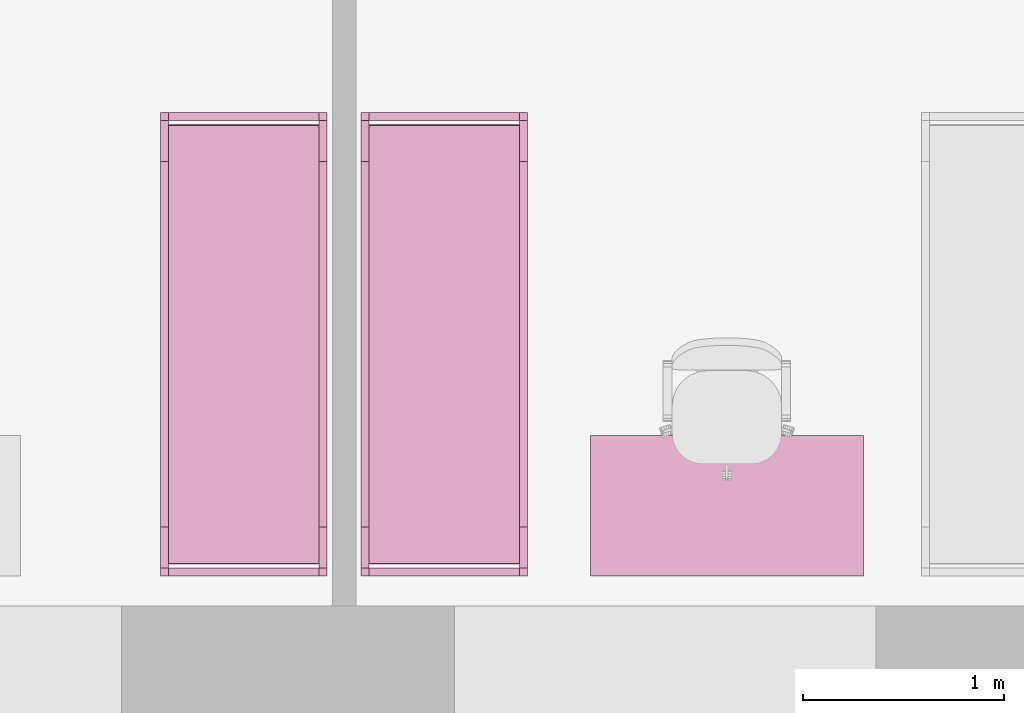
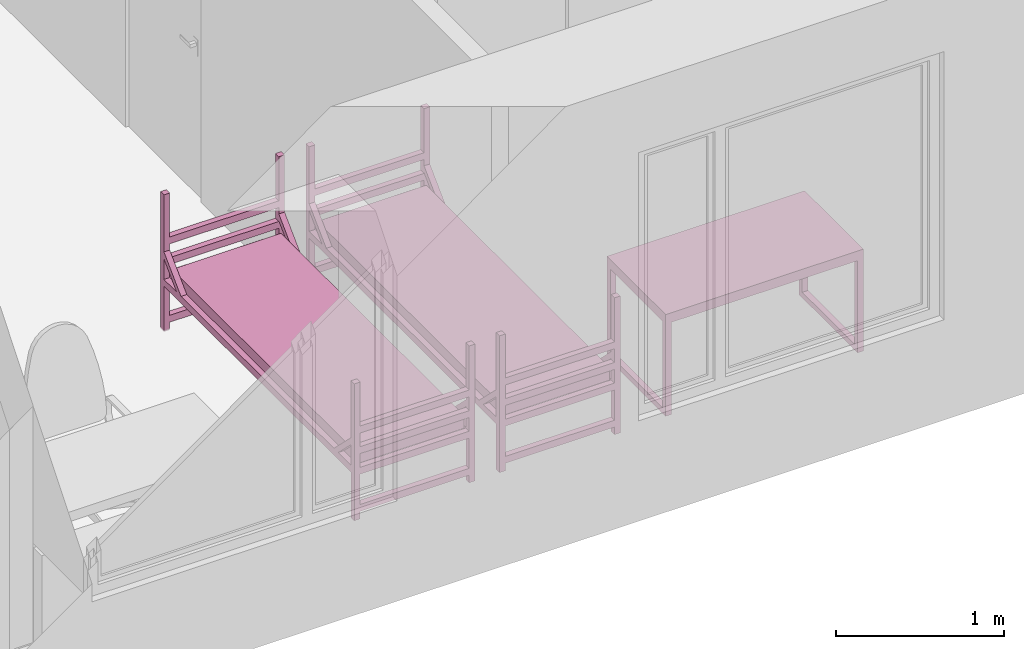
# One storey, part 28 of 46: 3 furnishings.
"""IFC2X3 building model written with IfcOpenShell, lengths in millimetres."""

import ifcopenshell
import ifcopenshell.guid

model = None  # the IFC model being written
_history = None  # IfcOwnerHistory: only IFC2X3 demands one
_inside = {}  # id of a spatial element -> (the spatial element, [elements in it])
_under = {}  # id of a project, library or spatial element -> (it, [spatial elements below it])
_declared = {}  # id of a project -> (the project, [libraries it declares])
_typed = {}  # id of a type object -> (the type object, [elements of that type])
_made_of = {}  # id of a material, layer set ... -> (it, [elements and type objects made of it])


def new_model(schema):
    """Start an empty IFC model of exactly this schema.

    Asked for "IFC4X3", IfcOpenShell would pick the latest addendum, in which some entities
    have other attributes; the version numbers below select the first issue.
    IFC2X3 requires an IfcOwnerHistory on every rooted entity: one is made here for all.
    """
    global model, _history
    if schema == "IFC4X3":
        model = ifcopenshell.file(schema_version=(4, 3, 0, 0))
    else:
        model = ifcopenshell.file(schema=schema)
    _inside.clear()
    _under.clear()
    _declared.clear()
    _typed.clear()
    _made_of.clear()
    _history = None
    if model.schema == "IFC2X3":
        org = make("IfcOrganization", Name="unknown")
        user = make(
            "IfcPersonAndOrganization",
            ThePerson=make("IfcPerson", FamilyName="unknown"),
            TheOrganization=org,
        )
        app = make(
            "IfcApplication",
            ApplicationDeveloper=org,
            Version="unknown",
            ApplicationFullName="unknown",
            ApplicationIdentifier="unknown",
        )
        _history = make(
            "IfcOwnerHistory",
            OwningUser=user,
            OwningApplication=app,
            ChangeAction="ADDED",
            CreationDate=0,
        )
    return model


def make(cls, **values):
    """One entity of the class cls with the attributes given. An attribute that is None is left unset."""
    return model.create_entity(
        cls, **{name: value for name, value in values.items() if value is not None}
    )


def entity(cls, *values):
    """Any entity or typed value of the class cls, its attributes in the order of the schema. None: left unset."""
    e = model.create_entity(cls)
    for i, value in enumerate(values):
        if value is not None:
            e[i] = value
    return e


def rooted(cls, **values):
    """An entity with a GlobalId (a new one), such as an element, a storey or a relation."""
    return make(cls, GlobalId=ifcopenshell.guid.new(), OwnerHistory=_history, **values)


def si_unit(unit_type, name, prefix=None):
    """IfcSIUnit, for example si_unit("LENGTHUNIT", "METRE", prefix="MILLI")."""
    return make("IfcSIUnit", UnitType=unit_type, Prefix=prefix, Name=name)


def converted_unit(unit_type, name, factor, base, dimensions=None, offset=None):
    """IfcConversionBasedUnit, such as the inch: factor (a typed value) times the base unit."""
    return make(
        "IfcConversionBasedUnit"
        if offset is None
        else "IfcConversionBasedUnitWithOffset",
        ConversionOffset=offset,
        Dimensions=None
        if dimensions is None
        else entity("IfcDimensionalExponents", *dimensions),
        UnitType=unit_type,
        Name=name,
        ConversionFactor=make(
            "IfcMeasureWithUnit", ValueComponent=factor, UnitComponent=base
        ),
    )


def derived_unit(unit_type, elements):
    """IfcDerivedUnit: a product of units, each with its exponent."""
    return make(
        "IfcDerivedUnit",
        Elements=[
            make("IfcDerivedUnitElement", Unit=unit, Exponent=power)
            for unit, power in elements
        ],
        UnitType=unit_type,
    )


def assignment(units):
    """IfcUnitAssignment: the units of a project."""
    return None if units is None else make("IfcUnitAssignment", Units=units)


def point(xyz):
    """IfcCartesianPoint."""
    return None if xyz is None else make("IfcCartesianPoint", Coordinates=xyz)


def direction(xyz):
    """IfcDirection."""
    return None if xyz is None else make("IfcDirection", DirectionRatios=xyz)


def frame(location, z_axis=None, x_axis=None):
    """IfcAxis2Placement3D, a coordinate frame: its origin and axes. An axis left out is left unset."""
    return make(
        "IfcAxis2Placement3D",
        Location=point(location),
        Axis=direction(z_axis),
        RefDirection=direction(x_axis),
    )


def frame_2d(location, x_axis=None):
    """IfcAxis2Placement2D, a coordinate frame in the plane: its origin and x axis."""
    return make(
        "IfcAxis2Placement2D", Location=point(location), RefDirection=direction(x_axis)
    )


def origin():
    """The frame at (0, 0, 0) with its axes left unset."""
    return frame((0.0, 0.0, 0.0))


def origin_2d_with_axis():
    """The frame at (0, 0) in the plane with the x axis (1, 0) written out."""
    return frame_2d((0.0, 0.0), x_axis=(1.0, 0.0))


def place(relative_to, where):
    """IfcLocalPlacement: puts the frame where relative to a parent placement (None: the world)."""
    return make(
        "IfcLocalPlacement", PlacementRelTo=relative_to, RelativePlacement=where
    )


def context(
    kind, dimensions, precision=None, world=None, true_north=None, identifier=None
):
    """IfcGeometricRepresentationContext, for example the 3D "Model" context."""
    return make(
        "IfcGeometricRepresentationContext",
        ContextIdentifier=identifier,
        ContextType=kind,
        CoordinateSpaceDimension=dimensions,
        Precision=precision,
        WorldCoordinateSystem=world,
        TrueNorth=true_north,
    )


def subcontext(parent, identifier, kind, view, scale=None):
    """IfcGeometricRepresentationSubContext, for example "Body" below "Model"."""
    return make(
        "IfcGeometricRepresentationSubContext",
        ContextIdentifier=identifier,
        ContextType=kind,
        ParentContext=parent,
        TargetScale=scale,
        TargetView=view,
    )


def project(units=None, contexts=None):
    """IfcProject with its units and contexts."""
    return rooted(
        "IfcProject",
        Name="project",
        RepresentationContexts=contexts,
        UnitsInContext=assignment(units),
    )


def spatial(cls, under=None, at=None, **own):
    """A site, building, storey or space (cls), placed at a placement, below another one or the project."""
    s = rooted(cls, ObjectPlacement=at, **own)
    if under is not None:
        _under.setdefault(under.id(), (under, []))[1].append(s)
    return s


def polyline(points):
    """IfcPolyline through the points."""
    return make("IfcPolyline", Points=[point(p) for p in points])


def circle_curve(where, radius):
    """IfcCircle in the frame where."""
    return make("IfcCircle", Position=where, Radius=radius)


def parameter(value):
    """IfcParameterValue: where a trimmed curve begins or ends, as a parameter of its basis curve."""
    return model.create_entity("IfcParameterValue", value)


def trimmed(basis, trim1, trim2, sense, master):
    """IfcTrimmedCurve: the piece of a basis curve between two trims."""
    return make(
        "IfcTrimmedCurve",
        BasisCurve=basis,
        Trim1=trim1,
        Trim2=trim2,
        SenseAgreement=sense,
        MasterRepresentation=master,
    )


def segment(curve, same_sense, transition):
    """IfcCompositeCurveSegment."""
    return make(
        "IfcCompositeCurveSegment",
        Transition=transition,
        SameSense=same_sense,
        ParentCurve=curve,
    )


def composite_curve(segments, self_intersect=None):
    """IfcCompositeCurve: segments joined end to end."""
    return make("IfcCompositeCurve", Segments=segments, SelfIntersect=self_intersect)


def profile(cls, at=None, kind="AREA", **sizes):
    """A parametric profile (cls). Its sizes go by their IFC names, for example OverallWidth=200.0."""
    return make(cls, ProfileType=kind, Position=at, **sizes)


def rectangle(**sizes):
    """IfcRectangleProfileDef."""
    return profile("IfcRectangleProfileDef", **sizes)


def outline(outer, holes=None, kind="AREA"):
    """IfcArbitraryClosedProfileDef: a profile drawn as a closed curve; with holes, ...WithVoids."""
    if holes is None:
        return make("IfcArbitraryClosedProfileDef", ProfileType=kind, OuterCurve=outer)
    return make(
        "IfcArbitraryProfileDefWithVoids",
        ProfileType=kind,
        OuterCurve=outer,
        InnerCurves=holes,
    )


def extrude(swept, where, along, depth):
    """IfcExtrudedAreaSolid: the profile swept, set in the frame where, extruded along a direction by depth."""
    return make(
        "IfcExtrudedAreaSolid",
        SweptArea=swept,
        Position=where,
        ExtrudedDirection=direction(along),
        Depth=depth,
    )


def faces_of(points, faces, orient=None, outer=None):
    """IfcFace entities. A face is a list of loops; a loop is a list of indices into points, from 0.

    orient and outer hold one flag for each loop. By default every Orientation is true, the
    first loop of a face is its IfcFaceOuterBound and the others are IfcFaceBound.
    """
    made = []
    for i, loops in enumerate(faces):
        bounds = []
        for j, loop in enumerate(loops):
            is_outer = j == 0 if outer is None else outer[i][j]
            bounds.append(
                make(
                    "IfcFaceOuterBound" if is_outer else "IfcFaceBound",
                    Bound=make("IfcPolyLoop", Polygon=[points[k] for k in loop]),
                    Orientation=True if orient is None else orient[i][j],
                )
            )
        made.append(make("IfcFace", Bounds=bounds))
    return made


def faceted_brep(points, faces, orient=None, outer=None, voids=None):
    """IfcFacetedBrep: a solid bounded by flat faces; with voids (closed shells), ...WithVoids."""
    shared = [point(p) for p in points]
    hull = make("IfcClosedShell", CfsFaces=faces_of(shared, faces, orient, outer))
    if voids is None:
        return make("IfcFacetedBrep", Outer=hull)
    return make(
        "IfcFacetedBrepWithVoids",
        Outer=hull,
        Voids=[
            make(cls, CfsFaces=faces_of(shared, fs, o, b)) for cls, fs, o, b in voids
        ],
    )


def shape(context_of_items, identifier, shape_type, items):
    """IfcShapeRepresentation: the items that make up one representation, for example the "Body"."""
    return make(
        "IfcShapeRepresentation",
        ContextOfItems=context_of_items,
        RepresentationIdentifier=identifier,
        RepresentationType=shape_type,
        Items=items,
    )


def source(mapping_origin, context_of_items, identifier, shape_type, items):
    """IfcRepresentationMap: a shape defined once, which mapped items show again and again."""
    return make(
        "IfcRepresentationMap",
        MappingOrigin=mapping_origin,
        MappedRepresentation=shape(context_of_items, identifier, shape_type, items),
    )


def transform(
    local_origin,
    x_axis=None,
    y_axis=None,
    z_axis=None,
    scale=None,
    scale2=None,
    scale3=None,
    uniform=True,
):
    """IfcCartesianTransformationOperator3D, or its non-uniform kind. x_axis, y_axis, z_axis: its Axis1, 2, 3."""
    if uniform:
        return make(
            "IfcCartesianTransformationOperator3D",
            Axis1=direction(x_axis),
            Axis2=direction(y_axis),
            LocalOrigin=point(local_origin),
            Scale=scale,
            Axis3=direction(z_axis),
        )
    return make(
        "IfcCartesianTransformationOperator3DnonUniform",
        Axis1=direction(x_axis),
        Axis2=direction(y_axis),
        LocalOrigin=point(local_origin),
        Scale=scale,
        Axis3=direction(z_axis),
        Scale2=scale2,
        Scale3=scale3,
    )


def mapped(mapping_source, mapping_target):
    """IfcMappedItem: shows the shape of a source again, moved by a transform."""
    return make(
        "IfcMappedItem", MappingSource=mapping_source, MappingTarget=mapping_target
    )


def material(Name=None, Category=None):
    """IfcMaterial."""
    return make("IfcMaterial", Name=Name, Category=Category)


def material_list(materials):
    """IfcMaterialList."""
    return make("IfcMaterialList", Materials=materials)


def made_of(thing, what):
    """Note that an element or type object is made of a material, layer set ...; save() writes the relation."""
    if what is not None:
        _made_of.setdefault(what.id(), (what, []))[1].append(thing)
    return thing


def type_object(cls, material=None, **own):
    """A type object (cls), such as IfcWallType, which elements share."""
    return made_of(rooted(cls, **own), material)


def type_shapes(of_type, sources):
    """Give a type object the sources (RepresentationMaps) that its elements show as mapped items."""
    of_type.RepresentationMaps = sources


def element(
    cls,
    number,
    at=None,
    inside=None,
    cuts=None,
    type_object=None,
    material=None,
    context=None,
    identifier="Body",
    shape_type=None,
    held_by="IfcProductDefinitionShape",
    body=None,
    shapes=None,
    **own,
):
    """One element of the class cls, such as IfcWall. Its Tag is "e" and its number.

    at: its placement. inside: the storey or other place that contains it. cuts: it is an
    opening in that element (IfcRelVoidsElement). A single representation is given by context,
    identifier, shape_type and body (its items); several are given by shapes. held_by: the class
    of the entity that holds the representations. save() writes the other relations.
    """
    e = rooted(cls, Tag="e%d" % number, ObjectPlacement=at, **own)
    if body is not None:
        shapes = [shape(context, identifier, shape_type, body)]
    if shapes is not None:
        e.Representation = make(held_by, Representations=shapes)
    if inside is not None:
        _inside.setdefault(inside.id(), (inside, []))[1].append(e)
    if cuts is not None:
        rooted(
            "IfcRelVoidsElement", RelatingBuildingElement=cuts, RelatedOpeningElement=e
        )
    if type_object is not None:
        _typed.setdefault(type_object.id(), (type_object, []))[1].append(e)
    return made_of(e, material)


def aggregate(whole, parts):
    """IfcRelAggregates: a whole, such as a stair, and the parts it consists of."""
    return rooted("IfcRelAggregates", RelatingObject=whole, RelatedObjects=parts)


def save(model, path):
    """Write the relations noted so far, then the file.

    IfcRelAggregates (storeys below a building ...), IfcRelContainedInSpatialStructure (elements
    in a storey), IfcRelDefinesByType, IfcRelAssociatesMaterial and IfcRelDeclares: one each for
    every whole, place, type object, material and project.
    """
    for whole, parts in _under.values():
        aggregate(whole, parts)
    for where, things in _inside.values():
        rooted(
            "IfcRelContainedInSpatialStructure",
            RelatedElements=things,
            RelatingStructure=where,
        )
    for kind, things in _typed.values():
        rooted("IfcRelDefinesByType", RelatedObjects=things, RelatingType=kind)
    for what, things in _made_of.values():
        rooted("IfcRelAssociatesMaterial", RelatedObjects=things, RelatingMaterial=what)
    for by, libraries in _declared.values():
        rooted("IfcRelDeclares", RelatingContext=by, RelatedDefinitions=libraries)
    model.write(path)


model = new_model("IFC2X3")

# Units and contexts
model_context = context("Model", 3, precision=0.01, world=origin(), true_north=direction((6.12303176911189e-17, 1.0)))
body_context = subcontext(model_context, "Body", "Model", "MODEL_VIEW")
ifc_project = project(units=[si_unit("LENGTHUNIT", "METRE", prefix="MILLI"), si_unit("AREAUNIT", "SQUARE_METRE"), si_unit("VOLUMEUNIT", "CUBIC_METRE"), converted_unit("PLANEANGLEUNIT", "DEGREE", entity("IfcRatioMeasure", 0.0174532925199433), si_unit("PLANEANGLEUNIT", "RADIAN"), dimensions=[0, 0, 0, 0, 0, 0, 0]), si_unit("MASSUNIT", "GRAM", prefix="KILO"), derived_unit("MASSDENSITYUNIT", [(si_unit("MASSUNIT", "GRAM", prefix="KILO"), 1), (si_unit("LENGTHUNIT", "METRE"), -3)]), si_unit("TIMEUNIT", "SECOND"), si_unit("FREQUENCYUNIT", "HERTZ"), si_unit("THERMODYNAMICTEMPERATUREUNIT", "DEGREE_CELSIUS"), derived_unit("THERMALTRANSMITTANCEUNIT", [(si_unit("MASSUNIT", "GRAM", prefix="KILO"), 1), (si_unit("THERMODYNAMICTEMPERATUREUNIT", "KELVIN"), -1), (si_unit("TIMEUNIT", "SECOND"), -3)]), derived_unit("VOLUMETRICFLOWRATEUNIT", [(si_unit("LENGTHUNIT", "METRE"), 3), (si_unit("TIMEUNIT", "SECOND"), -1)]), si_unit("ELECTRICCURRENTUNIT", "AMPERE"), si_unit("ELECTRICVOLTAGEUNIT", "VOLT"), si_unit("POWERUNIT", "WATT"), si_unit("FORCEUNIT", "NEWTON", prefix="KILO"), si_unit("ILLUMINANCEUNIT", "LUX"), si_unit("LUMINOUSFLUXUNIT", "LUMEN"), si_unit("LUMINOUSINTENSITYUNIT", "CANDELA"), derived_unit("USERDEFINED", [(si_unit("MASSUNIT", "GRAM", prefix="KILO"), -1), (si_unit("LENGTHUNIT", "METRE"), -2), (si_unit("TIMEUNIT", "SECOND"), 3), (si_unit("LUMINOUSFLUXUNIT", "LUMEN"), 1)]), derived_unit("LINEARVELOCITYUNIT", [(si_unit("LENGTHUNIT", "METRE"), 1), (si_unit("TIMEUNIT", "SECOND"), -1)]), si_unit("PRESSUREUNIT", "PASCAL"), derived_unit("USERDEFINED", [(si_unit("LENGTHUNIT", "METRE"), -2), (si_unit("MASSUNIT", "GRAM", prefix="KILO"), 1), (si_unit("TIMEUNIT", "SECOND"), -2)]), derived_unit("LINEARFORCEUNIT", [(si_unit("MASSUNIT", "GRAM", prefix="KILO"), 1), (si_unit("LENGTHUNIT", "METRE"), 1), (si_unit("TIMEUNIT", "SECOND"), -2), (si_unit("LENGTHUNIT", "METRE"), -1)]), derived_unit("PLANARFORCEUNIT", [(si_unit("MASSUNIT", "GRAM", prefix="KILO"), 1), (si_unit("LENGTHUNIT", "METRE"), 1), (si_unit("TIMEUNIT", "SECOND"), -2), (si_unit("LENGTHUNIT", "METRE"), -2)])], contexts=[model_context])

# Site, building, storey, space
site_placement = place(None, origin())
site = spatial("IfcSite", under=ifc_project, at=site_placement, Name="Default", CompositionType="ELEMENT")
building_placement = place(site_placement, origin())
building = spatial("IfcBuilding", under=site, at=building_placement, Name="SMA ARH", CompositionType="ELEMENT")
storey_placement = place(building_placement, frame((0.0, 0.0, 9910.0)))
storey = spatial("IfcBuildingStorey", under=building, at=storey_placement, Name="4 Korrus", CompositionType="ELEMENT", Elevation=9909.9999999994)
space_1_placement = place(storey_placement, origin())
space_1 = spatial("IfcSpace", under=storey, at=space_1_placement, Name="4-9", CompositionType="ELEMENT", InteriorOrExteriorSpace="INTERNAL")

# Furnishing
ifc_material_1 = material(Name="Madrats")
furniture_type_1 = type_object("IfcFurnitureType", Name="Kasarmu voodi ühekordne 2308x830:Kasarmu voodi ühekordne 2308x830", material=ifc_material_1)
shared_shape_1 = source(origin(), body_context, "Body", "SweptSolid", [
    extrude(rectangle(XDim=39.9999999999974, YDim=750.000000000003, at=frame_2d((-1.35003119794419e-13, -2.8421709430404e-14), x_axis=(1.0, 0.0))), frame((1.68638457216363, -1226.7969571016, 55.0), z_axis=(0.0, 0.0, 1.0), x_axis=(0.0, -1.0, 0.0)), (0.0, 0.0, 1.0), 49.9999999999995),
    extrude(rectangle(XDim=39.9999999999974, YDim=750.000000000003, at=frame_2d((-1.35003119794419e-13, -2.8421709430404e-14), x_axis=(1.0, 0.0))), frame((1.68638457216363, -1226.7969571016, 325.0), z_axis=(0.0, 0.0, 1.0), x_axis=(0.0, -1.0, 0.0)), (0.0, 0.0, 1.0), 49.9999999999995),
    extrude(rectangle(XDim=39.9999999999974, YDim=750.000000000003, at=frame_2d((-1.35003119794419e-13, -2.8421709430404e-14), x_axis=(1.0, 0.0))), frame((1.68638457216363, -1226.7969571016, 475.0), z_axis=(0.0, 0.0, 1.0), x_axis=(0.0, -1.0, 0.0)), (0.0, 0.0, 1.0), 49.9999999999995),
    extrude(rectangle(XDim=39.9999999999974, YDim=750.000000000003, at=frame_2d((-1.35003119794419e-13, -2.8421709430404e-14), x_axis=(1.0, 0.0))), frame((1.68638457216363, -1226.7969571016, 625.0), z_axis=(0.0, 0.0, 1.0), x_axis=(0.0, -1.0, 0.0)), (0.0, 0.0, 1.0), 50.0000000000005),
    extrude(rectangle(XDim=39.9999999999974, YDim=750.000000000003, at=frame_2d((1.35003119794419e-13, -2.8421709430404e-14), x_axis=(1.0, 0.0))), frame((1.68638457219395, 1041.2030428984, 55.0), z_axis=(0.0, 0.0, 1.0), x_axis=(0.0, -1.0, 0.0)), (0.0, 0.0, 1.0), 50.0000000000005),
    extrude(rectangle(XDim=39.9999999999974, YDim=750.000000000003, at=frame_2d((1.35003119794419e-13, -2.8421709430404e-14), x_axis=(1.0, 0.0))), frame((1.68638457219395, 1041.2030428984, 325.0), z_axis=(0.0, 0.0, 1.0), x_axis=(0.0, -1.0, 0.0)), (0.0, 0.0, 1.0), 50.0000000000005),
    extrude(rectangle(XDim=39.9999999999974, YDim=750.000000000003, at=frame_2d((1.35003119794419e-13, -2.8421709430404e-14), x_axis=(1.0, 0.0))), frame((1.68638457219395, 1041.2030428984, 475.0), z_axis=(0.0, 0.0, 1.0), x_axis=(0.0, -1.0, 0.0)), (0.0, 0.0, 1.0), 50.0000000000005),
    extrude(rectangle(XDim=39.9999999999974, YDim=750.000000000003, at=frame_2d((1.35003119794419e-13, -2.8421709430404e-14), x_axis=(1.0, 0.0))), frame((1.68638457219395, 1041.2030428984, 625.0), z_axis=(0.0, 0.0, 1.0), x_axis=(0.0, -1.0, 0.0)), (0.0, 0.0, 1.0), 49.9999999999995),
    extrude(outline(composite_curve([segment(trimmed(circle_curve(frame_2d((1085.0, -40.0), x_axis=(1.0, 0.0)), 10.0), [parameter(270.0)], [parameter(0.0)], True, "PARAMETER"), True, "CONTINUOUS"), segment(polyline([(1095.0, -40.0), (1095.0, 40.0)]), True, "CONTINUOUS"), segment(trimmed(circle_curve(frame_2d((1085.0, 40.0), x_axis=(1.0, 0.0)), 10.0), [parameter(0.0)], [parameter(90.0000000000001)], True, "PARAMETER"), True, "CONTINUOUS"), segment(polyline([(1085.0, 50.0), (-1085.0, 50.0)]), True, "CONTINUOUS"), segment(trimmed(circle_curve(frame_2d((-1085.0, 40.0), x_axis=(1.0, 0.0)), 10.0), [parameter(90.0000000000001)], [parameter(180.0)], True, "PARAMETER"), True, "CONTINUOUS"), segment(polyline([(-1095.0, 40.0), (-1095.0, -40.0)]), True, "CONTINUOUS"), segment(trimmed(circle_curve(frame_2d((-1085.0, -40.0), x_axis=(1.0, 0.0)), 10.0), [parameter(180.0)], [parameter(270.0)], True, "PARAMETER"), True, "CONTINUOUS"), segment(polyline([(-1085.0, -50.0), (1085.0, -50.0)]), True, "CONTINUOUS")], self_intersect=False)), frame((-373.313615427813, -92.7969571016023, 405.0), z_axis=(1.0, 0.0, 0.0), x_axis=(0.0, -1.0, 0.0)), (0.0, 0.0, 1.0), 750.000000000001),
    extrude(outline(polyline([(-1114.0, -100.0), (1114.0, -100.0), (1114.0, -50.0), (961.59199141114, -50.0), (1114.0, 100.0), (1114.0, 150.0), (910.789321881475, -50.0), (-910.789321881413, -50.0), (-1114.0, 150.0), (-1114.0, 100.0), (-961.591991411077, -50.0), (-1114.0, -50.0), (-1114.0, -100.0)])), frame((-413.313615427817, -92.7969571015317, 430.0), z_axis=(1.0, 0.0, 0.0), x_axis=(0.0, 1.0, 0.0)), (0.0, 0.0, 1.0), 39.9999999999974),
    extrude(outline(polyline([(-1114.0, -100.0), (1114.0, -100.0), (1114.0, -50.0), (961.591991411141, -50.0), (1114.0, 100.0), (1114.0, 150.0), (910.789321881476, -50.0), (-910.789321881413, -50.0), (-1114.0, 150.0), (-1114.0, 100.0), (-961.591991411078, -50.0), (-1114.0, -50.0), (-1114.0, -100.0)])), frame((376.686384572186, -92.796957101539, 430.0), z_axis=(1.0, 0.0, 0.0), x_axis=(0.0, 1.0, 0.0)), (0.0, 0.0, 1.0), 39.9999999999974),
    extrude(rectangle(XDim=39.9999999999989, YDim=39.9999999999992, at=frame_2d((-6.75015598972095e-14, 0.0), x_axis=(1.0, 0.0))), frame((396.686384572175, -1226.79695710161, 0.0), z_axis=(0.0, 0.0, 1.0), x_axis=(0.0, 1.0, 0.0)), (0.0, 0.0, 1.0), 995.0),
    extrude(rectangle(XDim=39.9999999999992, YDim=39.9999999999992, at=frame_2d((-1.35003119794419e-13, 0.0), x_axis=(1.0, 0.0))), frame((396.686384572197, 1041.20304289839, 0.0), z_axis=(0.0, 0.0, 1.0), x_axis=(0.0, 1.0, 0.0)), (0.0, 0.0, 1.0), 995.0),
    extrude(rectangle(XDim=40.0000000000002, YDim=39.9999999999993, at=frame_2d((-1.35003119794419e-13, 0.0), x_axis=(1.0, 0.0))), frame((-393.313615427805, 1041.2030428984, 0.0), z_axis=(0.0, 0.0, 1.0), x_axis=(0.0, 1.0, 0.0)), (0.0, 0.0, 1.0), 995.0),
    extrude(rectangle(XDim=39.9999999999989, YDim=39.9999999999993, at=frame_2d((-6.75015598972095e-14, 0.0), x_axis=(1.0, 0.0))), frame((-393.313615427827, -1226.7969571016, 0.0), z_axis=(0.0, 0.0, 1.0), x_axis=(0.0, 1.0, 0.0)), (0.0, 0.0, 1.0), 995.0),
])
type_shapes(furniture_type_1, [shared_shape_1])
furnishing_1_placement = place(space_1_placement, frame((19032.1863845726, 1211.20304289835, 0.0), z_axis=(0.0, 0.0, 1.0), x_axis=(-1.0, 0.0, 0.0)))
element("IfcFurnishingElement", 1, at=furnishing_1_placement, inside=space_1, type_object=furniture_type_1, material=ifc_material_1, Name="Kasarmu voodi ühekordne 2308x830:Kasarmu voodi ühekordne 2308x830", ObjectType="Kasarmu voodi ühekordne 2308x830:Kasarmu voodi ühekordne 2308x830", context=body_context, shape_type="MappedRepresentation", body=[
    mapped(shared_shape_1, transform((0.0, 0.0, 0.0), scale=1.0)),
])

# Space
space_2_placement = place(storey_placement, origin())
space_2 = spatial("IfcSpace", under=storey, at=space_2_placement, Name="4-8", CompositionType="ELEMENT", InteriorOrExteriorSpace="INTERNAL")

# Furnishings
ifc_material_2 = material(Name="<Unnamed>")
ifc_material_list = material_list([ifc_material_2, ifc_material_2])
furniture_type_2 = type_object("IfcFurnitureType", Name="kirjutuslaud 1360x700mm:kirjutuslaud 1360x700mm", material=ifc_material_list)
shared_shape_2 = source(origin(), body_context, "Body", "Brep", [
    faceted_brep([(680.0, -350.0, 720.0), (680.0, 350.0, 720.0), (680.0, 350.0, 750.0), (680.0, -350.0, 750.0), (-680.0, -350.0, 720.0), (-680.0, -350.0, 750.0), (-680.0, 350.0, 750.0), (-680.0, 350.0, 720.0)], [[[0, 1, 2, 3]], [[4, 5, 6, 7]], [[1, 0, 4, 7]], [[2, 1, 7, 6]], [[3, 2, 6, 5]], [[0, 3, 5, 4]]]),
    faceted_brep([(-640.0, -310.0, 680.0), (-640.0, 310.0, 680.0), (-640.0, 310.0, 720.0), (-640.0, -310.0, 720.0), (-680.0, -350.0, 720.0), (-680.0, 350.0, 720.0), (-680.0, 350.0, 10.0), (-680.0, -350.0, 10.0), (-680.0, 310.0, 680.0), (-680.0, -310.0, 680.0), (-680.0, -310.0, 50.0), (-680.0, 310.0, 50.0), (-640.0, -350.0, 10.0), (-640.0, -350.0, 680.0), (640.0, -350.0, 680.0), (640.0, -350.0, 10.0), (680.0, -350.0, 10.0), (680.0, -350.0, 720.0), (-640.0, 350.0, 10.0), (680.0, 350.0, 720.0), (680.0, 350.0, 10.0), (640.0, 350.0, 10.0), (640.0, 350.0, 680.0), (-640.0, 350.0, 680.0), (640.0, 310.0, 720.0), (640.0, -310.0, 720.0), (-640.0, 310.0, 50.0), (-640.0, -310.0, 50.0), (640.0, -310.0, 680.0), (640.0, 310.0, 680.0), (680.0, 310.0, 680.0), (680.0, 310.0, 50.0), (680.0, -310.0, 50.0), (680.0, -310.0, 680.0), (640.0, -310.0, 50.0), (640.0, 310.0, 50.0)], [[[0, 1, 2, 3]], [[4, 5, 6, 7], [8, 9, 10, 11]], [[4, 7, 12, 13, 14, 15, 16, 17]], [[18, 12, 7, 6]], [[6, 5, 19, 20, 21, 22, 23, 18]], [[19, 5, 4, 17], [2, 24, 25, 3]], [[26, 1, 8, 11]], [[27, 26, 11, 10]], [[0, 27, 10, 9]], [[1, 0, 9, 8]], [[14, 13, 0, 28]], [[24, 2, 1, 29]], [[3, 25, 28, 0]], [[17, 16, 20, 19], [30, 31, 32, 33]], [[21, 15, 14, 28, 34, 35, 29, 22]], [[20, 16, 15, 21]], [[31, 30, 29, 35]], [[32, 31, 35, 34]], [[33, 32, 34, 28]], [[30, 33, 28, 29]], [[29, 28, 25, 24]], [[29, 1, 23, 22]], [[12, 18, 23, 1, 26, 27, 0, 13]]]),
    faceted_brep([(-663.729456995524, -270.466136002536, 0.0), (-659.847171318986, -269.955023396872, 0.0), (-655.964885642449, -270.466136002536, 0.0), (-652.347171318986, -271.964642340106, 0.0), (-649.240569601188, -274.348421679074, 0.0), (-646.85679026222, -277.455023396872, 0.0), (-645.35828392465, -281.072737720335, 0.0), (-644.847171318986, -284.955023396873, 0.0), (-645.35828392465, -288.83730907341, 0.0), (-646.85679026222, -292.455023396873, 0.0), (-649.240569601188, -295.561625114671, 0.0), (-652.347171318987, -297.945404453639, 0.0), (-655.964885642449, -299.443910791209, 0.0), (-659.847171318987, -299.955023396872, 0.0), (-663.729456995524, -299.443910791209, 0.0), (-667.347171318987, -297.945404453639, 0.0), (-670.453773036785, -295.561625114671, 0.0), (-672.837552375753, -292.455023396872, 0.0), (-674.336058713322, -288.83730907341, 0.0), (-674.847171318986, -284.955023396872, 0.0), (-674.336058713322, -281.072737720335, 0.0), (-672.837552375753, -277.455023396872, 0.0), (-670.453773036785, -274.348421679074, 0.0), (-667.347171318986, -271.964642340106, 0.0), (-655.964885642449, -299.443910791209, 10.0), (-652.347171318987, -297.945404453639, 10.0), (-649.240569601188, -295.561625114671, 10.0), (-646.85679026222, -292.455023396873, 10.0), (-645.35828392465, -288.83730907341, 10.0), (-644.847171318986, -284.955023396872, 10.0), (-645.35828392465, -281.072737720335, 10.0), (-646.85679026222, -277.455023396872, 10.0), (-649.240569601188, -274.348421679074, 10.0), (-652.347171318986, -271.964642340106, 10.0), (-655.964885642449, -270.466136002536, 10.0), (-659.847171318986, -269.955023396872, 10.0), (-663.729456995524, -270.466136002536, 10.0), (-667.347171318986, -271.964642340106, 10.0), (-670.453773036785, -274.348421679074, 10.0), (-672.837552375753, -277.455023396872, 10.0), (-674.336058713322, -281.072737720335, 10.0), (-674.847171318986, -284.955023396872, 10.0), (-674.336058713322, -288.83730907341, 10.0), (-672.837552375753, -292.455023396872, 10.0), (-670.453773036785, -295.561625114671, 10.0), (-667.347171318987, -297.945404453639, 10.0), (-663.729456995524, -299.443910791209, 10.0), (-659.847171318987, -299.955023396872, 10.0)], [[[0, 1, 2, 3, 4, 5, 6, 7, 8, 9, 10, 11, 12, 13, 14, 15, 16, 17, 18, 19, 20, 21, 22, 23]], [[24, 25, 26, 27, 28, 29, 30, 31, 32, 33, 34, 35, 36, 37, 38, 39, 40, 41, 42, 43, 44, 45, 46, 47]], [[18, 42, 41, 19]], [[17, 43, 42, 18]], [[45, 44, 16, 15]], [[17, 16, 44, 43]], [[46, 45, 15, 14]], [[47, 46, 14, 13]], [[12, 24, 47, 13]], [[11, 25, 24, 12]], [[27, 26, 10, 9]], [[11, 10, 26, 25]], [[28, 27, 9, 8]], [[29, 28, 8, 7]], [[6, 30, 29, 7]], [[5, 31, 30, 6]], [[33, 32, 4, 3]], [[5, 4, 32, 31]], [[34, 33, 3, 2]], [[35, 34, 2, 1]], [[0, 36, 35, 1]], [[23, 37, 36, 0]], [[39, 38, 22, 21]], [[23, 22, 38, 37]], [[40, 39, 21, 20]], [[41, 40, 20, 19]]]),
    faceted_brep([(-655.964885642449, 270.466136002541, 10.0), (-652.347171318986, 271.964642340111, 10.0), (-649.240569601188, 274.348421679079, 10.0), (-646.85679026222, 277.455023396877, 10.0), (-645.35828392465, 281.07273772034, 10.0), (-644.847171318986, 284.955023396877, 10.0), (-645.35828392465, 288.837309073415, 10.0), (-646.85679026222, 292.455023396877, 10.0), (-649.240569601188, 295.561625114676, 10.0), (-652.347171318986, 297.945404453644, 10.0), (-655.964885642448, 299.443910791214, 10.0), (-659.847171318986, 299.955023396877, 10.0), (-663.729456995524, 299.443910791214, 10.0), (-667.347171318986, 297.945404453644, 10.0), (-670.453773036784, 295.561625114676, 10.0), (-672.837552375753, 292.455023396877, 10.0), (-674.336058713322, 288.837309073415, 10.0), (-674.847171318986, 284.955023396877, 10.0), (-674.336058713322, 281.07273772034, 10.0), (-672.837552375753, 277.455023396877, 10.0), (-670.453773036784, 274.348421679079, 10.0), (-667.347171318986, 271.964642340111, 10.0), (-663.729456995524, 270.466136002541, 10.0), (-659.847171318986, 269.955023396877, 10.0), (-655.964885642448, 299.443910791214, 0.0), (-652.347171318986, 297.945404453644, 0.0), (-649.240569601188, 295.561625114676, 0.0), (-646.85679026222, 292.455023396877, 0.0), (-645.35828392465, 288.837309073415, 0.0), (-644.847171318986, 284.955023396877, 0.0), (-645.35828392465, 281.07273772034, 0.0), (-646.85679026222, 277.455023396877, 0.0), (-649.240569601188, 274.348421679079, 0.0), (-652.347171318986, 271.964642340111, 0.0), (-655.964885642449, 270.466136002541, 0.0), (-659.847171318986, 269.955023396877, 0.0), (-663.729456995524, 270.466136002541, 0.0), (-667.347171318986, 271.964642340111, 0.0), (-670.453773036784, 274.348421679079, 0.0), (-672.837552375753, 277.455023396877, 0.0), (-674.336058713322, 281.07273772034, 0.0), (-674.847171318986, 284.955023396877, 0.0), (-674.336058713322, 288.837309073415, 0.0), (-672.837552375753, 292.455023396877, 0.0), (-670.453773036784, 295.561625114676, 0.0), (-667.347171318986, 297.945404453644, 0.0), (-663.729456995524, 299.443910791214, 0.0), (-659.847171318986, 299.955023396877, 0.0)], [[[0, 1, 2, 3, 4, 5, 6, 7, 8, 9, 10, 11, 12, 13, 14, 15, 16, 17, 18, 19, 20, 21, 22, 23]], [[24, 25, 26, 27, 28, 29, 30, 31, 32, 33, 34, 35, 36, 37, 38, 39, 40, 41, 42, 43, 44, 45, 46, 47]], [[40, 18, 17, 41]], [[39, 19, 18, 40]], [[21, 20, 38, 37]], [[39, 38, 20, 19]], [[22, 21, 37, 36]], [[23, 22, 36, 35]], [[34, 0, 23, 35]], [[33, 1, 0, 34]], [[3, 2, 32, 31]], [[33, 32, 2, 1]], [[4, 3, 31, 30]], [[5, 4, 30, 29]], [[28, 6, 5, 29]], [[27, 7, 6, 28]], [[9, 8, 26, 25]], [[27, 26, 8, 7]], [[10, 9, 25, 24]], [[11, 10, 24, 47]], [[46, 12, 11, 47]], [[45, 13, 12, 46]], [[15, 14, 44, 43]], [[45, 44, 14, 13]], [[16, 15, 43, 42]], [[17, 16, 42, 41]]]),
    faceted_brep([(656.270543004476, -270.466136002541, 0.0), (660.152828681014, -269.955023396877, 0.0), (664.035114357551, -270.466136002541, 0.0), (667.652828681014, -271.96464234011, 0.0), (670.759430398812, -274.348421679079, 0.0), (673.14320973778, -277.455023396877, 0.0), (674.64171607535, -281.072737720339, 0.0), (675.152828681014, -284.955023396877, 0.0), (674.64171607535, -288.837309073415, 0.0), (673.14320973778, -292.455023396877, 0.0), (670.759430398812, -295.561625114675, 0.0), (667.652828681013, -297.945404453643, 0.0), (664.035114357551, -299.443910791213, 0.0), (660.152828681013, -299.955023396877, 0.0), (656.270543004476, -299.443910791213, 0.0), (652.652828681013, -297.945404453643, 0.0), (649.546226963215, -295.561625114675, 0.0), (647.162447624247, -292.455023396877, 0.0), (645.663941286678, -288.837309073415, 0.0), (645.152828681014, -284.955023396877, 0.0), (645.663941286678, -281.072737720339, 0.0), (647.162447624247, -277.455023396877, 0.0), (649.546226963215, -274.348421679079, 0.0), (652.652828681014, -271.96464234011, 0.0), (664.035114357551, -299.443910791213, 10.0), (667.652828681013, -297.945404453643, 10.0), (670.759430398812, -295.561625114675, 10.0), (673.14320973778, -292.455023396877, 10.0), (674.64171607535, -288.837309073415, 10.0), (675.152828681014, -284.955023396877, 10.0), (674.64171607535, -281.072737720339, 10.0), (673.14320973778, -277.455023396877, 10.0), (670.759430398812, -274.348421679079, 10.0), (667.652828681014, -271.96464234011, 10.0), (664.035114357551, -270.466136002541, 10.0), (660.152828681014, -269.955023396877, 10.0), (656.270543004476, -270.466136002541, 10.0), (652.652828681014, -271.96464234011, 10.0), (649.546226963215, -274.348421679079, 10.0), (647.162447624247, -277.455023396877, 10.0), (645.663941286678, -281.072737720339, 10.0), (645.152828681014, -284.955023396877, 10.0), (645.663941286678, -288.837309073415, 10.0), (647.162447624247, -292.455023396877, 10.0), (649.546226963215, -295.561625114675, 10.0), (652.652828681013, -297.945404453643, 10.0), (656.270543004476, -299.443910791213, 10.0), (660.152828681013, -299.955023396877, 10.0)], [[[0, 1, 2, 3, 4, 5, 6, 7, 8, 9, 10, 11, 12, 13, 14, 15, 16, 17, 18, 19, 20, 21, 22, 23]], [[24, 25, 26, 27, 28, 29, 30, 31, 32, 33, 34, 35, 36, 37, 38, 39, 40, 41, 42, 43, 44, 45, 46, 47]], [[18, 42, 41, 19]], [[17, 43, 42, 18]], [[45, 44, 16, 15]], [[17, 16, 44, 43]], [[46, 45, 15, 14]], [[47, 46, 14, 13]], [[12, 24, 47, 13]], [[11, 25, 24, 12]], [[27, 26, 10, 9]], [[11, 10, 26, 25]], [[28, 27, 9, 8]], [[29, 28, 8, 7]], [[6, 30, 29, 7]], [[5, 31, 30, 6]], [[33, 32, 4, 3]], [[5, 4, 32, 31]], [[34, 33, 3, 2]], [[35, 34, 2, 1]], [[0, 36, 35, 1]], [[23, 37, 36, 0]], [[39, 38, 22, 21]], [[23, 22, 38, 37]], [[40, 39, 21, 20]], [[41, 40, 20, 19]]]),
    faceted_brep([(664.035114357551, 270.466136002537, 10.0), (667.652828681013, 271.964642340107, 10.0), (670.759430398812, 274.348421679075, 10.0), (673.14320973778, 277.455023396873, 10.0), (674.64171607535, 281.072737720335, 10.0), (675.152828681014, 284.955023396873, 10.0), (674.64171607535, 288.837309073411, 10.0), (673.14320973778, 292.455023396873, 10.0), (670.759430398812, 295.561625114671, 10.0), (667.652828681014, 297.94540445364, 10.0), (664.035114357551, 299.443910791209, 10.0), (660.152828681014, 299.955023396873, 10.0), (656.270543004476, 299.443910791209, 10.0), (652.652828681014, 297.94540445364, 10.0), (649.546226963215, 295.561625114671, 10.0), (647.162447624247, 292.455023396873, 10.0), (645.663941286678, 288.837309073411, 10.0), (645.152828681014, 284.955023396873, 10.0), (645.663941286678, 281.072737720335, 10.0), (647.162447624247, 277.455023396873, 10.0), (649.546226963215, 274.348421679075, 10.0), (652.652828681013, 271.964642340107, 10.0), (656.270543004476, 270.466136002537, 10.0), (660.152828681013, 269.955023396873, 10.0), (664.035114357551, 299.443910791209, 0.0), (667.652828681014, 297.94540445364, 0.0), (670.759430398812, 295.561625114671, 0.0), (673.14320973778, 292.455023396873, 0.0), (674.64171607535, 288.837309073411, 0.0), (675.152828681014, 284.955023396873, 0.0), (674.64171607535, 281.072737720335, 0.0), (673.14320973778, 277.455023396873, 0.0), (670.759430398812, 274.348421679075, 0.0), (667.652828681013, 271.964642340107, 0.0), (664.035114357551, 270.466136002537, 0.0), (660.152828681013, 269.955023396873, 0.0), (656.270543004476, 270.466136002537, 0.0), (652.652828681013, 271.964642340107, 0.0), (649.546226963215, 274.348421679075, 0.0), (647.162447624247, 277.455023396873, 0.0), (645.663941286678, 281.072737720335, 0.0), (645.152828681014, 284.955023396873, 0.0), (645.663941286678, 288.837309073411, 0.0), (647.162447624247, 292.455023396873, 0.0), (649.546226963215, 295.561625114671, 0.0), (652.652828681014, 297.94540445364, 0.0), (656.270543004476, 299.443910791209, 0.0), (660.152828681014, 299.955023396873, 0.0)], [[[0, 1, 2, 3, 4, 5, 6, 7, 8, 9, 10, 11, 12, 13, 14, 15, 16, 17, 18, 19, 20, 21, 22, 23]], [[24, 25, 26, 27, 28, 29, 30, 31, 32, 33, 34, 35, 36, 37, 38, 39, 40, 41, 42, 43, 44, 45, 46, 47]], [[40, 18, 17, 41]], [[39, 19, 18, 40]], [[21, 20, 38, 37]], [[39, 38, 20, 19]], [[22, 21, 37, 36]], [[23, 22, 36, 35]], [[34, 0, 23, 35]], [[33, 1, 0, 34]], [[3, 2, 32, 31]], [[33, 32, 2, 1]], [[4, 3, 31, 30]], [[5, 4, 30, 29]], [[28, 6, 5, 29]], [[27, 7, 6, 28]], [[9, 8, 26, 25]], [[27, 26, 8, 7]], [[10, 9, 25, 24]], [[11, 10, 24, 47]], [[46, 12, 11, 47]], [[45, 13, 12, 46]], [[15, 14, 44, 43]], [[45, 44, 14, 13]], [[16, 15, 43, 42]], [[17, 16, 42, 41]]]),
])
type_shapes(furniture_type_2, [shared_shape_2])
furnishing_2_placement = place(space_2_placement, frame((21437.0, 500.0, 0.0)))
element("IfcFurnishingElement", 2, at=furnishing_2_placement, inside=space_2, type_object=furniture_type_2, Name="kirjutuslaud 1360x700mm:kirjutuslaud 1360x700mm", ObjectType="kirjutuslaud 1360x700mm:kirjutuslaud 1360x700mm", context=body_context, shape_type="MappedRepresentation", body=[
    mapped(shared_shape_2, transform((0.0, 0.0, 0.0), scale=1.0)),
])
furniture_type_3 = type_object("IfcFurnitureType", Name="Kasarmu voodi ühekordne 2308x830:Kasarmu voodi ühekordne 2308x830", material=ifc_material_1)
shared_shape_3 = source(origin(), body_context, "Body", "SweptSolid", [
    extrude(rectangle(XDim=750.000000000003, YDim=39.9999999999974, at=frame_2d((0.0, 1.35003119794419e-13), x_axis=(1.0, 0.0))), frame((1.68638457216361, 1226.7969571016, 55.0)), (0.0, 0.0, 1.0), 49.9999999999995),
    extrude(rectangle(XDim=750.000000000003, YDim=39.9999999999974, at=frame_2d((0.0, 1.35003119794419e-13), x_axis=(1.0, 0.0))), frame((1.68638457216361, 1226.7969571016, 325.0)), (0.0, 0.0, 1.0), 49.9999999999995),
    extrude(rectangle(XDim=750.000000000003, YDim=39.9999999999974, at=frame_2d((0.0, 1.35003119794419e-13), x_axis=(1.0, 0.0))), frame((1.68638457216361, 1226.7969571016, 475.0)), (0.0, 0.0, 1.0), 49.9999999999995),
    extrude(rectangle(XDim=750.000000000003, YDim=39.9999999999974, at=frame_2d((0.0, 1.35003119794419e-13), x_axis=(1.0, 0.0))), frame((1.68638457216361, 1226.7969571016, 625.0)), (0.0, 0.0, 1.0), 50.0000000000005),
    extrude(rectangle(XDim=750.000000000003, YDim=39.9999999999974, at=origin_2d_with_axis()), frame((1.68638457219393, -1041.2030428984, 55.0)), (0.0, 0.0, 1.0), 50.0000000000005),
    extrude(rectangle(XDim=750.000000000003, YDim=39.9999999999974, at=origin_2d_with_axis()), frame((1.68638457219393, -1041.2030428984, 325.0)), (0.0, 0.0, 1.0), 50.0000000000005),
    extrude(rectangle(XDim=750.000000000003, YDim=39.9999999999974, at=origin_2d_with_axis()), frame((1.68638457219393, -1041.2030428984, 475.0)), (0.0, 0.0, 1.0), 50.0000000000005),
    extrude(rectangle(XDim=750.000000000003, YDim=39.9999999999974, at=origin_2d_with_axis()), frame((1.68638457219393, -1041.2030428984, 625.0)), (0.0, 0.0, 1.0), 49.9999999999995),
    extrude(outline(composite_curve([segment(polyline([(-1085.0, -50.0), (1085.0, -50.0)]), True, "CONTINUOUS"), segment(trimmed(circle_curve(frame_2d((1085.0, -40.0), x_axis=(-1.0, 0.0)), 10.0), [parameter(90.0000000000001)], [parameter(180.0)], True, "PARAMETER"), True, "CONTINUOUS"), segment(polyline([(1095.0, -40.0), (1095.0, 40.0)]), True, "CONTINUOUS"), segment(trimmed(circle_curve(frame_2d((1085.0, 40.0), x_axis=(-1.0, 0.0)), 10.0), [parameter(180.0)], [parameter(270.0)], True, "PARAMETER"), True, "CONTINUOUS"), segment(polyline([(1085.0, 50.0), (-1085.0, 50.0)]), True, "CONTINUOUS"), segment(trimmed(circle_curve(frame_2d((-1085.0, 40.0), x_axis=(-1.0, 0.0)), 10.0), [parameter(270.0)], [parameter(0.0)], True, "PARAMETER"), True, "CONTINUOUS"), segment(polyline([(-1095.0, 40.0), (-1095.0, -40.0)]), True, "CONTINUOUS"), segment(trimmed(circle_curve(frame_2d((-1085.0, -40.0), x_axis=(-1.0, 0.0)), 10.0), [parameter(0.0)], [parameter(90.0000000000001)], True, "PARAMETER"), True, "CONTINUOUS")], self_intersect=False)), frame((-373.313615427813, 92.7969571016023, 405.0), z_axis=(1.0, 0.0, 0.0), x_axis=(0.0, -1.0, 0.0)), (0.0, 0.0, 1.0), 750.000000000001),
    extrude(outline(polyline([(-100.0, -1114.0), (-50.0, -1114.0), (-50.0, -961.591991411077), (100.0, -1114.0), (150.0, -1114.0), (-50.0, -910.789321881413), (-50.0, 910.789321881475), (150.0, 1114.0), (100.0, 1114.0), (-50.0, 961.591991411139), (-50.0, 1114.0), (-100.0, 1114.0), (-100.0, -1114.0)])), frame((-413.313615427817, 92.7969571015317, 430.0), z_axis=(1.0, 0.0, 0.0), x_axis=(0.0, 0.0, 1.0)), (0.0, 0.0, 1.0), 39.9999999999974),
    extrude(outline(polyline([(-100.0, -1114.0), (-50.0, -1114.0), (-50.0, -961.591991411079), (100.0, -1114.0), (150.0, -1114.0), (-50.0, -910.789321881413), (-50.0, 910.789321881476), (150.0, 1114.0), (100.0, 1114.0), (-50.0, 961.591991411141), (-50.0, 1114.0), (-100.0, 1114.0), (-100.0, -1114.0)])), frame((376.686384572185, 92.796957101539, 430.0), z_axis=(1.0, 0.0, 0.0), x_axis=(0.0, 0.0, 1.0)), (0.0, 0.0, 1.0), 39.9999999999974),
    extrude(rectangle(XDim=39.9999999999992, YDim=39.9999999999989, at=frame_2d((0.0, -6.75015598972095e-14), x_axis=(1.0, 0.0))), frame((396.686384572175, 1226.79695710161, 0.0), z_axis=(0.0, 0.0, 1.0), x_axis=(-1.0, 0.0, 0.0)), (0.0, 0.0, 1.0), 995.0),
    extrude(rectangle(XDim=39.9999999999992, YDim=39.9999999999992, at=origin_2d_with_axis()), frame((396.686384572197, -1041.20304289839, 0.0), z_axis=(0.0, 0.0, 1.0), x_axis=(-1.0, 0.0, 0.0)), (0.0, 0.0, 1.0), 995.0),
    extrude(rectangle(XDim=39.9999999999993, YDim=40.0000000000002, at=origin_2d_with_axis()), frame((-393.313615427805, -1041.2030428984, 0.0), z_axis=(0.0, 0.0, 1.0), x_axis=(-1.0, 0.0, 0.0)), (0.0, 0.0, 1.0), 995.0),
    extrude(rectangle(XDim=39.9999999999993, YDim=39.9999999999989, at=frame_2d((0.0, -6.75015598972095e-14), x_axis=(1.0, 0.0))), frame((-393.313615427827, 1226.7969571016, 0.0), z_axis=(0.0, 0.0, 1.0), x_axis=(-1.0, 0.0, 0.0)), (0.0, 0.0, 1.0), 995.0),
])
type_shapes(furniture_type_3, [shared_shape_3])
furnishing_3_placement = place(space_2_placement, frame((20031.1863845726, 1396.7969571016, 0.0), z_axis=(0.0, 0.0, 1.0), x_axis=(-1.0, 0.0, 0.0)))
element("IfcFurnishingElement", 3, at=furnishing_3_placement, inside=space_2, type_object=furniture_type_3, material=ifc_material_1, Name="Kasarmu voodi ühekordne 2308x830:Kasarmu voodi ühekordne 2308x830", ObjectType="Kasarmu voodi ühekordne 2308x830:Kasarmu voodi ühekordne 2308x830", context=body_context, shape_type="MappedRepresentation", body=[
    mapped(shared_shape_3, transform((0.0, 0.0, 0.0), scale=1.0)),
])

save(model, "model.ifc")
